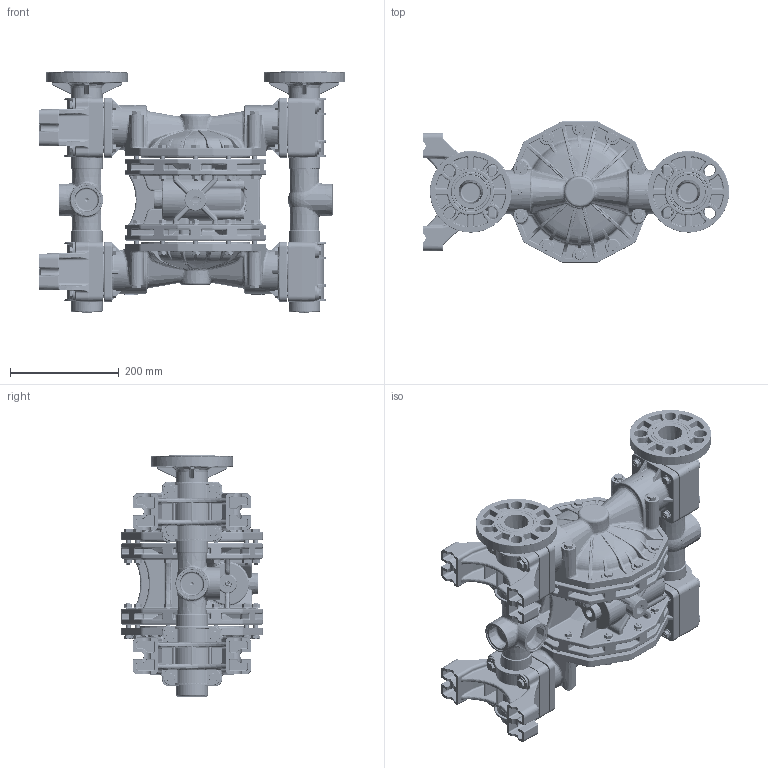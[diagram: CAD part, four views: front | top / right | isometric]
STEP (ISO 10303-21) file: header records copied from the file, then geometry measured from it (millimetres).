
FILE_DESCRIPTION (( 'STEP AP203' ), '1' );
FILE_NAME ('P 400 Assieme Alluminio.STEP', '2017-08-31T07:25:17', ( 'User' ), ( 'Hewlett-Packard Company' ), 'SwSTEP 2.0', 'SolidWorks 2016', '' );
FILE_SCHEMA (( 'CONFIG_CONTROL_DESIGN' ));
Products named in the file (1): P 400 Assieme Alluminio
Bounding box: 563 x 260 x 443.5 mm (x, y, z)
Surface area: 2239955.4 mm2 (no closed solid volume)
Topology: 0 solids, 1453 shells, 23159 faces, 55541 edges, 33793 vertices
Faces by surface type: bspline 6306, cylinder 5142, cone 4365, torus 3750, plane 3300, sphere 296
Entity records: 1188248 total; most frequent: CARTESIAN_POINT 716715, ORIENTED_EDGE 104252, DIRECTION 81258, EDGE_CURVE 55210, VERTEX_POINT 33771, AXIS2_PLACEMENT_3D 32880, EDGE_LOOP 23835, ADVANCED_FACE 23159
